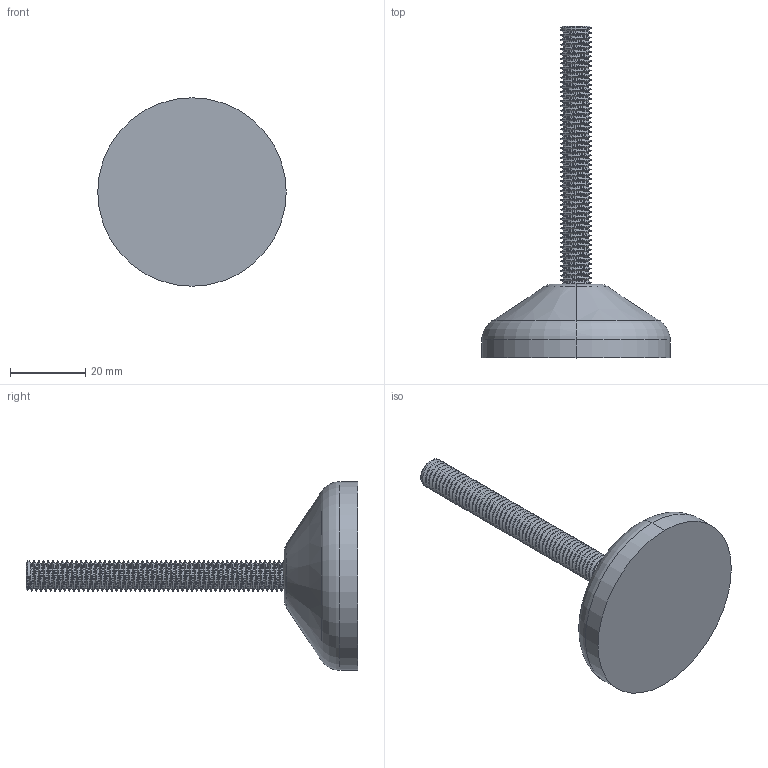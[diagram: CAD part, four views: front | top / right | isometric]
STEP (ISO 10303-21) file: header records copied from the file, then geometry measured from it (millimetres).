
FILE_DESCRIPTION (( 'STEP AP214' ), '1' );
FILE_NAME ('084.401.002.STEP', '2022-03-07T08:21:50', ( '' ), ( '' ), 'SwSTEP 2.0', 'SolidWorks 2018', '' );
FILE_SCHEMA (( 'AUTOMOTIVE_DESIGN' ));
Length unit declared in the file: millimetre
Products named in the file (1): 084.401.002
Bounding box: 50 x 88 x 50 mm (x, y, z)
Volume: 28751.1 mm3; surface area: 7992.7 mm2
Topology: 1 solids, 1 shells, 131 faces, 374 edges, 246 vertices
Faces by surface type: cylinder 115, plane 5, cone 4, torus 4, bspline 3
Entity records: 11990 total; most frequent: CARTESIAN_POINT 7887, ORIENTED_EDGE 748, DIRECTION 424, EDGE_CURVE 374, VERTEX_POINT 246, AXIS2_PLACEMENT_3D 151, EDGE_LOOP 132, ADVANCED_FACE 131
